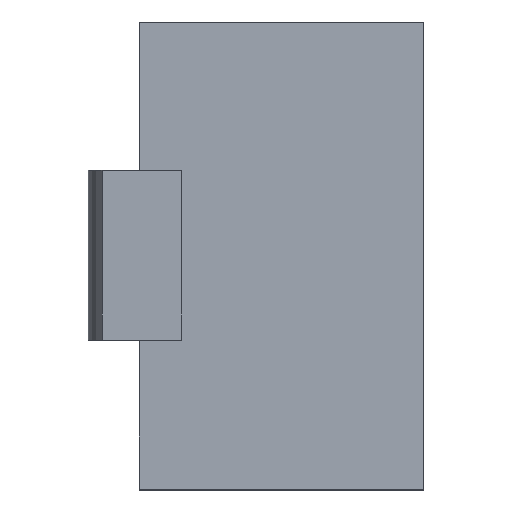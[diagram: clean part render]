
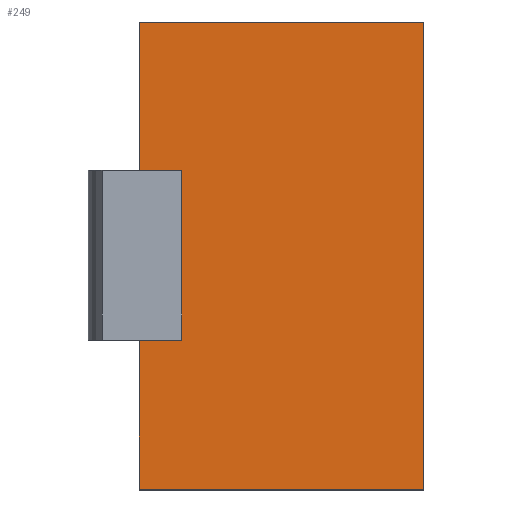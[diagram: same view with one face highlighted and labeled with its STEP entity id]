
A CAD part, top view. The second image highlights one B-rep face of the part: STEP entity #249.
In plain terms, the highlighted planar face has unit normal (0, 0, 1).
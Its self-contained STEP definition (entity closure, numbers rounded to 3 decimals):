
#21 = EDGE_CURVE('',#22,#24,#26,.T.);
#22 = VERTEX_POINT('',#23);
#23 = CARTESIAN_POINT('',(-32.5,4.5,4.85));
#24 = VERTEX_POINT('',#25);
#25 = CARTESIAN_POINT('',(-32.5,15.5,4.85));
#26 = SURFACE_CURVE('',#27,(#31,#43),.PCURVE_S1.);
#27 = LINE('',#28,#29);
#28 = CARTESIAN_POINT('',(-32.5,4.5,4.85));
#29 = VECTOR('',#30,1.);
#30 = DIRECTION('',(0.,1.,0.));
#31 = PCURVE('',#32,#37);
#32 = PLANE('',#33);
#33 = AXIS2_PLACEMENT_3D('',#34,#35,#36);
#34 = CARTESIAN_POINT('',(-32.5,4.5,-5.45));
#35 = DIRECTION('',(-1.,-0.,-0.));
#36 = DIRECTION('',(0.,0.,-1.));
#37 = DEFINITIONAL_REPRESENTATION('',(#38),#42);
#38 = LINE('',#39,#40);
#39 = CARTESIAN_POINT('',(-10.3,-0.));
#40 = VECTOR('',#41,1.);
#41 = DIRECTION('',(-0.,-1.));
#42 = ( GEOMETRIC_REPRESENTATION_CONTEXT(2) 
PARAMETRIC_REPRESENTATION_CONTEXT() REPRESENTATION_CONTEXT('2D SPACE',''
  ) );
#43 = PCURVE('',#44,#49);
#44 = PLANE('',#45);
#45 = AXIS2_PLACEMENT_3D('',#46,#47,#48);
#46 = CARTESIAN_POINT('',(-32.5,4.5,4.85));
#47 = DIRECTION('',(0.,0.,1.));
#48 = DIRECTION('',(1.,0.,0.));
#49 = DEFINITIONAL_REPRESENTATION('',(#50),#54);
#50 = LINE('',#51,#52);
#51 = CARTESIAN_POINT('',(0.,-0.));
#52 = VECTOR('',#53,1.);
#53 = DIRECTION('',(-0.,1.));
#54 = ( GEOMETRIC_REPRESENTATION_CONTEXT(2) 
PARAMETRIC_REPRESENTATION_CONTEXT() REPRESENTATION_CONTEXT('2D SPACE',''
  ) );
#72 = PLANE('',#73);
#73 = AXIS2_PLACEMENT_3D('',#74,#75,#76);
#74 = CARTESIAN_POINT('',(-32.5,4.5,-5.45));
#75 = DIRECTION('',(0.,1.,0.));
#76 = DIRECTION('',(0.,0.,-1.));
#238 = PLANE('',#239);
#239 = AXIS2_PLACEMENT_3D('',#240,#241,#242);
#240 = CARTESIAN_POINT('',(-32.5,15.5,-5.45));
#241 = DIRECTION('',(0.,1.,0.));
#242 = DIRECTION('',(0.,0.,-1.));
#249 = ADVANCED_FACE('',(#250),#44,.T.);
#250 = FACE_BOUND('',#251,.F.);
#251 = EDGE_LOOP('',(#252,#275,#276,#299,#325,#353,#381,#409));
#252 = ORIENTED_EDGE('',*,*,#253,.F.);
#253 = EDGE_CURVE('',#24,#254,#256,.T.);
#254 = VERTEX_POINT('',#255);
#255 = CARTESIAN_POINT('',(-39.2,15.5,4.85));
#256 = SURFACE_CURVE('',#257,(#261,#268),.PCURVE_S1.);
#257 = LINE('',#258,#259);
#258 = CARTESIAN_POINT('',(-32.5,15.5,4.85));
#259 = VECTOR('',#260,1.);
#260 = DIRECTION('',(-1.,-0.,-0.));
#261 = PCURVE('',#44,#262);
#262 = DEFINITIONAL_REPRESENTATION('',(#263),#267);
#263 = LINE('',#264,#265);
#264 = CARTESIAN_POINT('',(0.,11.));
#265 = VECTOR('',#266,1.);
#266 = DIRECTION('',(-1.,0.));
#267 = ( GEOMETRIC_REPRESENTATION_CONTEXT(2) 
PARAMETRIC_REPRESENTATION_CONTEXT() REPRESENTATION_CONTEXT('2D SPACE',''
  ) );
#268 = PCURVE('',#238,#269);
#269 = DEFINITIONAL_REPRESENTATION('',(#270),#274);
#270 = LINE('',#271,#272);
#271 = CARTESIAN_POINT('',(-10.3,-0.));
#272 = VECTOR('',#273,1.);
#273 = DIRECTION('',(-0.,1.));
#274 = ( GEOMETRIC_REPRESENTATION_CONTEXT(2) 
PARAMETRIC_REPRESENTATION_CONTEXT() REPRESENTATION_CONTEXT('2D SPACE',''
  ) );
#275 = ORIENTED_EDGE('',*,*,#21,.F.);
#276 = ORIENTED_EDGE('',*,*,#277,.T.);
#277 = EDGE_CURVE('',#22,#278,#280,.T.);
#278 = VERTEX_POINT('',#279);
#279 = CARTESIAN_POINT('',(-39.2,4.5,4.85));
#280 = SURFACE_CURVE('',#281,(#285,#292),.PCURVE_S1.);
#281 = LINE('',#282,#283);
#282 = CARTESIAN_POINT('',(-32.5,4.5,4.85));
#283 = VECTOR('',#284,1.);
#284 = DIRECTION('',(-1.,-0.,-0.));
#285 = PCURVE('',#44,#286);
#286 = DEFINITIONAL_REPRESENTATION('',(#287),#291);
#287 = LINE('',#288,#289);
#288 = CARTESIAN_POINT('',(0.,-0.));
#289 = VECTOR('',#290,1.);
#290 = DIRECTION('',(-1.,0.));
#291 = ( GEOMETRIC_REPRESENTATION_CONTEXT(2) 
PARAMETRIC_REPRESENTATION_CONTEXT() REPRESENTATION_CONTEXT('2D SPACE',''
  ) );
#292 = PCURVE('',#72,#293);
#293 = DEFINITIONAL_REPRESENTATION('',(#294),#298);
#294 = LINE('',#295,#296);
#295 = CARTESIAN_POINT('',(-10.3,-0.));
#296 = VECTOR('',#297,1.);
#297 = DIRECTION('',(-0.,1.));
#298 = ( GEOMETRIC_REPRESENTATION_CONTEXT(2) 
PARAMETRIC_REPRESENTATION_CONTEXT() REPRESENTATION_CONTEXT('2D SPACE',''
  ) );
#299 = ORIENTED_EDGE('',*,*,#300,.F.);
#300 = EDGE_CURVE('',#301,#278,#303,.T.);
#301 = VERTEX_POINT('',#302);
#302 = CARTESIAN_POINT('',(-39.2,8.,4.85));
#303 = SURFACE_CURVE('',#304,(#308,#314),.PCURVE_S1.);
#304 = LINE('',#305,#306);
#305 = CARTESIAN_POINT('',(-39.2,-8.15,4.85));
#306 = VECTOR('',#307,1.);
#307 = DIRECTION('',(0.,-1.,0.));
#308 = PCURVE('',#44,#309);
#309 = DEFINITIONAL_REPRESENTATION('',(#310),#313);
#310 = B_SPLINE_CURVE_WITH_KNOTS('',1,(#311,#312),.UNSPECIFIED.,.F.,.F.,
  (2,2),(-23.65,-12.65),.PIECEWISE_BEZIER_KNOTS.);
#311 = CARTESIAN_POINT('',(-6.7,11.));
#312 = CARTESIAN_POINT('',(-6.7,0.));
#313 = ( GEOMETRIC_REPRESENTATION_CONTEXT(2) 
PARAMETRIC_REPRESENTATION_CONTEXT() REPRESENTATION_CONTEXT('2D SPACE',''
  ) );
#314 = PCURVE('',#315,#320);
#315 = PLANE('',#316);
#316 = AXIS2_PLACEMENT_3D('',#317,#318,#319);
#317 = CARTESIAN_POINT('',(-39.2,-20.8,8.55));
#318 = DIRECTION('',(-1.,0.,0.));
#319 = DIRECTION('',(0.,0.,1.));
#320 = DEFINITIONAL_REPRESENTATION('',(#321),#324);
#321 = B_SPLINE_CURVE_WITH_KNOTS('',1,(#322,#323),.UNSPECIFIED.,.F.,.F.,
  (2,2),(-23.65,-12.65),.PIECEWISE_BEZIER_KNOTS.);
#322 = CARTESIAN_POINT('',(-3.7,36.3));
#323 = CARTESIAN_POINT('',(-3.7,25.3));
#324 = ( GEOMETRIC_REPRESENTATION_CONTEXT(2) 
PARAMETRIC_REPRESENTATION_CONTEXT() REPRESENTATION_CONTEXT('2D SPACE',''
  ) );
#325 = ORIENTED_EDGE('',*,*,#326,.T.);
#326 = EDGE_CURVE('',#301,#327,#329,.T.);
#327 = VERTEX_POINT('',#328);
#328 = CARTESIAN_POINT('',(-38.2,8.,4.85));
#329 = SURFACE_CURVE('',#330,(#334,#341),.PCURVE_S1.);
#330 = LINE('',#331,#332);
#331 = CARTESIAN_POINT('',(-35.35,8.,4.85));
#332 = VECTOR('',#333,1.);
#333 = DIRECTION('',(1.,-0.,-0.));
#334 = PCURVE('',#44,#335);
#335 = DEFINITIONAL_REPRESENTATION('',(#336),#340);
#336 = LINE('',#337,#338);
#337 = CARTESIAN_POINT('',(-2.85,3.5));
#338 = VECTOR('',#339,1.);
#339 = DIRECTION('',(1.,-0.));
#340 = ( GEOMETRIC_REPRESENTATION_CONTEXT(2) 
PARAMETRIC_REPRESENTATION_CONTEXT() REPRESENTATION_CONTEXT('2D SPACE',''
  ) );
#341 = PCURVE('',#342,#347);
#342 = PLANE('',#343);
#343 = AXIS2_PLACEMENT_3D('',#344,#345,#346);
#344 = CARTESIAN_POINT('',(-38.2,8.,3.88));
#345 = DIRECTION('',(-0.,1.,-0.));
#346 = DIRECTION('',(0.,0.,-1.));
#347 = DEFINITIONAL_REPRESENTATION('',(#348),#352);
#348 = LINE('',#349,#350);
#349 = CARTESIAN_POINT('',(-0.97,-2.85));
#350 = VECTOR('',#351,1.);
#351 = DIRECTION('',(-0.,-1.));
#352 = ( GEOMETRIC_REPRESENTATION_CONTEXT(2) 
PARAMETRIC_REPRESENTATION_CONTEXT() REPRESENTATION_CONTEXT('2D SPACE',''
  ) );
#353 = ORIENTED_EDGE('',*,*,#354,.T.);
#354 = EDGE_CURVE('',#327,#355,#357,.T.);
#355 = VERTEX_POINT('',#356);
#356 = CARTESIAN_POINT('',(-38.2,12.,4.85));
#357 = SURFACE_CURVE('',#358,(#362,#369),.PCURVE_S1.);
#358 = LINE('',#359,#360);
#359 = CARTESIAN_POINT('',(-38.2,6.25,4.85));
#360 = VECTOR('',#361,1.);
#361 = DIRECTION('',(-0.,1.,-0.));
#362 = PCURVE('',#44,#363);
#363 = DEFINITIONAL_REPRESENTATION('',(#364),#368);
#364 = LINE('',#365,#366);
#365 = CARTESIAN_POINT('',(-5.7,1.75));
#366 = VECTOR('',#367,1.);
#367 = DIRECTION('',(0.,1.));
#368 = ( GEOMETRIC_REPRESENTATION_CONTEXT(2) 
PARAMETRIC_REPRESENTATION_CONTEXT() REPRESENTATION_CONTEXT('2D SPACE',''
  ) );
#369 = PCURVE('',#370,#375);
#370 = PLANE('',#371);
#371 = AXIS2_PLACEMENT_3D('',#372,#373,#374);
#372 = CARTESIAN_POINT('',(-38.2,8.,3.88));
#373 = DIRECTION('',(-1.,-0.,-0.));
#374 = DIRECTION('',(0.,0.,-1.));
#375 = DEFINITIONAL_REPRESENTATION('',(#376),#380);
#376 = LINE('',#377,#378);
#377 = CARTESIAN_POINT('',(-0.97,1.75));
#378 = VECTOR('',#379,1.);
#379 = DIRECTION('',(-0.,-1.));
#380 = ( GEOMETRIC_REPRESENTATION_CONTEXT(2) 
PARAMETRIC_REPRESENTATION_CONTEXT() REPRESENTATION_CONTEXT('2D SPACE',''
  ) );
#381 = ORIENTED_EDGE('',*,*,#382,.F.);
#382 = EDGE_CURVE('',#383,#355,#385,.T.);
#383 = VERTEX_POINT('',#384);
#384 = CARTESIAN_POINT('',(-39.2,12.,4.85));
#385 = SURFACE_CURVE('',#386,(#390,#397),.PCURVE_S1.);
#386 = LINE('',#387,#388);
#387 = CARTESIAN_POINT('',(-35.35,12.,4.85));
#388 = VECTOR('',#389,1.);
#389 = DIRECTION('',(1.,-0.,-0.));
#390 = PCURVE('',#44,#391);
#391 = DEFINITIONAL_REPRESENTATION('',(#392),#396);
#392 = LINE('',#393,#394);
#393 = CARTESIAN_POINT('',(-2.85,7.5));
#394 = VECTOR('',#395,1.);
#395 = DIRECTION('',(1.,-0.));
#396 = ( GEOMETRIC_REPRESENTATION_CONTEXT(2) 
PARAMETRIC_REPRESENTATION_CONTEXT() REPRESENTATION_CONTEXT('2D SPACE',''
  ) );
#397 = PCURVE('',#398,#403);
#398 = PLANE('',#399);
#399 = AXIS2_PLACEMENT_3D('',#400,#401,#402);
#400 = CARTESIAN_POINT('',(-38.2,12.,3.88));
#401 = DIRECTION('',(-0.,1.,-0.));
#402 = DIRECTION('',(0.,0.,-1.));
#403 = DEFINITIONAL_REPRESENTATION('',(#404),#408);
#404 = LINE('',#405,#406);
#405 = CARTESIAN_POINT('',(-0.97,-2.85));
#406 = VECTOR('',#407,1.);
#407 = DIRECTION('',(-0.,-1.));
#408 = ( GEOMETRIC_REPRESENTATION_CONTEXT(2) 
PARAMETRIC_REPRESENTATION_CONTEXT() REPRESENTATION_CONTEXT('2D SPACE',''
  ) );
#409 = ORIENTED_EDGE('',*,*,#410,.F.);
#410 = EDGE_CURVE('',#254,#383,#411,.T.);
#411 = SURFACE_CURVE('',#412,(#416,#422),.PCURVE_S1.);
#412 = LINE('',#413,#414);
#413 = CARTESIAN_POINT('',(-39.2,-8.15,4.85));
#414 = VECTOR('',#415,1.);
#415 = DIRECTION('',(0.,-1.,0.));
#416 = PCURVE('',#44,#417);
#417 = DEFINITIONAL_REPRESENTATION('',(#418),#421);
#418 = B_SPLINE_CURVE_WITH_KNOTS('',1,(#419,#420),.UNSPECIFIED.,.F.,.F.,
  (2,2),(-23.65,-12.65),.PIECEWISE_BEZIER_KNOTS.);
#419 = CARTESIAN_POINT('',(-6.7,11.));
#420 = CARTESIAN_POINT('',(-6.7,0.));
#421 = ( GEOMETRIC_REPRESENTATION_CONTEXT(2) 
PARAMETRIC_REPRESENTATION_CONTEXT() REPRESENTATION_CONTEXT('2D SPACE',''
  ) );
#422 = PCURVE('',#315,#423);
#423 = DEFINITIONAL_REPRESENTATION('',(#424),#427);
#424 = B_SPLINE_CURVE_WITH_KNOTS('',1,(#425,#426),.UNSPECIFIED.,.F.,.F.,
  (2,2),(-23.65,-12.65),.PIECEWISE_BEZIER_KNOTS.);
#425 = CARTESIAN_POINT('',(-3.7,36.3));
#426 = CARTESIAN_POINT('',(-3.7,25.3));
#427 = ( GEOMETRIC_REPRESENTATION_CONTEXT(2) 
PARAMETRIC_REPRESENTATION_CONTEXT() REPRESENTATION_CONTEXT('2D SPACE',''
  ) );
